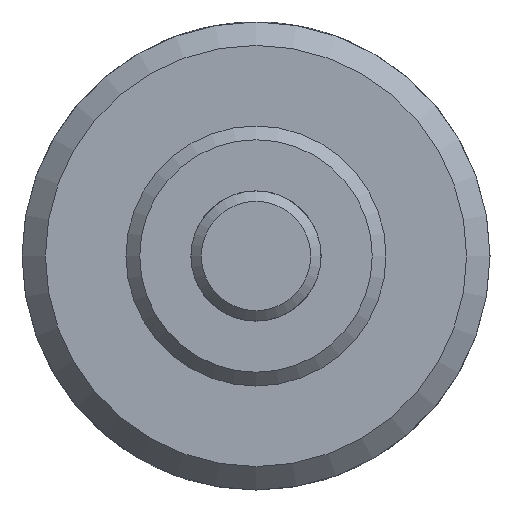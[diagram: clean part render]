
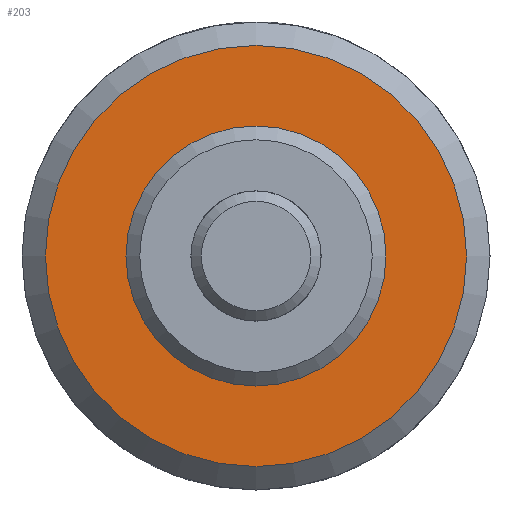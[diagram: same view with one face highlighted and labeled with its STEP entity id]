
A CAD part, left-side view. The second image highlights one B-rep face of the part: STEP entity #203.
In plain terms, the highlighted planar face has unit normal (-1, 0, 0).
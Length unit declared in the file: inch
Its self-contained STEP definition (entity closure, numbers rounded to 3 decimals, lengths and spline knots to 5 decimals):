
#203 = ADVANCED_FACE( '', ( #410, #411 ), #412, .F. );
#410 = FACE_OUTER_BOUND( '', #608, .T. );
#411 = FACE_BOUND( '', #609, .T. );
#412 = PLANE( '', #610 );
#608 = EDGE_LOOP( '', ( #941 ) );
#609 = EDGE_LOOP( '', ( #942 ) );
#610 = AXIS2_PLACEMENT_3D( '', #943, #944, #945 );
#941 = ORIENTED_EDGE( '', *, *, #1071, .F. );
#942 = ORIENTED_EDGE( '', *, *, #1001, .T. );
#943 = CARTESIAN_POINT( '', ( 0.5, 0.312, 0. ) );
#944 = DIRECTION( '', ( 1., 0., 0. ) );
#945 = DIRECTION( '', ( 0., 0., -1. ) );
#1001 = EDGE_CURVE( '', #1132, #1132, #1133, .T. );
#1071 = EDGE_CURVE( '', #1241, #1241, #1242, .T. );
#1132 = VERTEX_POINT( '', #1315 );
#1133 = CIRCLE( '', #1316, 0.312 );
#1241 = VERTEX_POINT( '', #1524 );
#1242 = CIRCLE( '', #1525, 0.50625 );
#1315 = CARTESIAN_POINT( '', ( 0.5, 0., -0.312 ) );
#1316 = AXIS2_PLACEMENT_3D( '', #1612, #1613, #1614 );
#1524 = CARTESIAN_POINT( '', ( 0.5, 0., -0.50625 ) );
#1525 = AXIS2_PLACEMENT_3D( '', #1707, #1708, #1709 );
#1612 = CARTESIAN_POINT( '', ( 0.5, 0., 0. ) );
#1613 = DIRECTION( '', ( 1., 0., 0. ) );
#1614 = DIRECTION( '', ( 0., 0., -1. ) );
#1707 = CARTESIAN_POINT( '', ( 0.5, 0., 0. ) );
#1708 = DIRECTION( '', ( 1., 0., 0. ) );
#1709 = DIRECTION( '', ( 0., 0., -1. ) );
